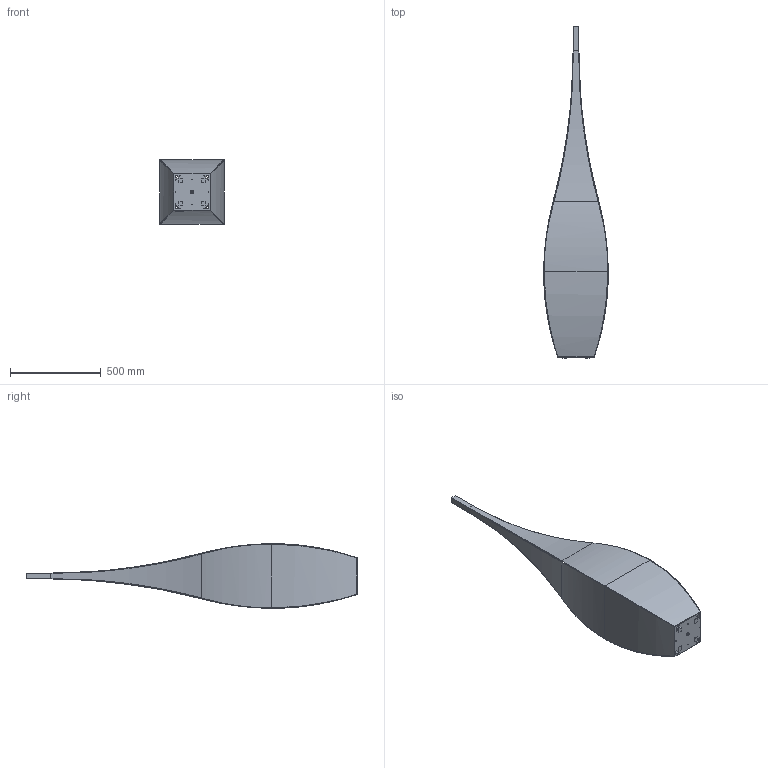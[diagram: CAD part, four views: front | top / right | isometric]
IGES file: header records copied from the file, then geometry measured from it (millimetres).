
Start section: SolidWorks IGES file using analytic representation for surfaces
Global section: file name: \\UTENTI\Dati Utenti\Tecnico\DC\2D - 3D per sito\3D\DeCastelli-3D-Jaipur 183.igs; native system: SolidWorks 2022; preprocessor: SolidWorks 2022; author: maria; date: 240725.084319; units: millimetre
Bounding box: 356.23 x 1827.12 x 356.23 mm (x, y, z)
Surface area: 2923138.2 mm2 (no closed solid volume)
Topology: 0 solids, 0 shells, 142 faces, 1579 edges, 1579 vertices
Faces by surface type: bspline 101, revolution 41
